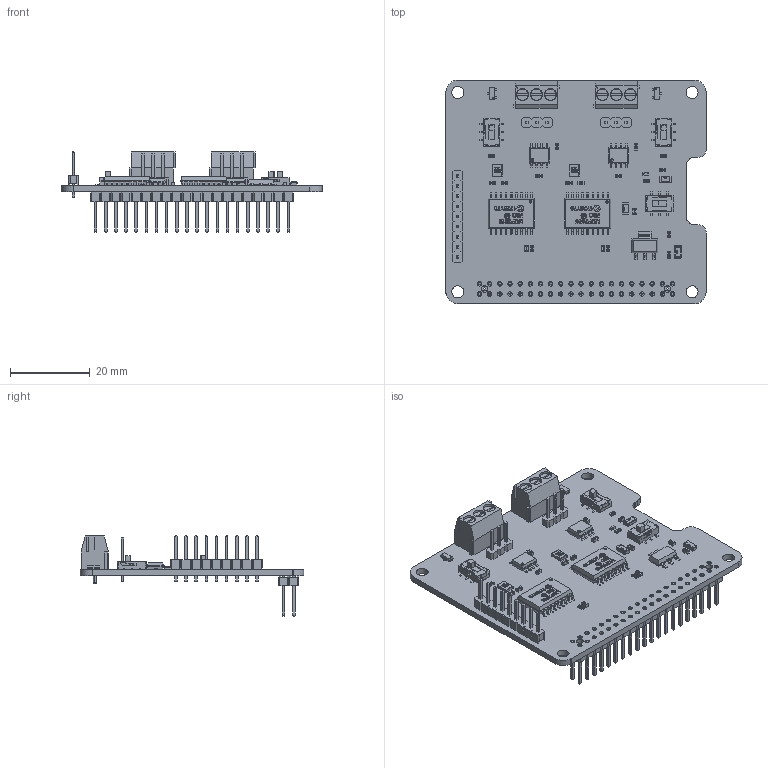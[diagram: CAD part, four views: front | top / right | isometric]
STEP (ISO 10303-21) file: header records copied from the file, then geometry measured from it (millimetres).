
FILE_DESCRIPTION(/* description */ (''),/* implementation_level */ '2;1');
FILE_NAME(/* name */ '2CH-CAN_step.prt.stp',/* time_stamp */ '2025-08-19T10:36:45+08:00',/* author */ (''),/* organization */ (''),/* preprocessor_version */ 'ST-DEVELOPER v16.7',/* originating_system */ 'SIEMENS PLM Software NX 12.0',/* authorisation */ '');
FILE_SCHEMA (('AUTOMOTIVE_DESIGN { 1 0 10303 214 3 1 1 1 }'));
Products named in the file (84): User_Library-LED_0603_R_Pad; User_Library-LED_0603_R_Pocket001; User_Library-LED_0603_R_Fillet; User_Library-LED_0603_R_Pad004; User_Library-LED_0603_R_Pocket002; LOGO_85327; R_060379863; K3-2380ke; K3-2380; Open CASCADE STEP translator 6.8 2.7.1.10; Open CASCADE STEP translator 6.8 2.7.1.9; Open CASCADE STEP translator 6.8 2.7.1.8; Open CASCADE STEP translator 6.8 2.7.1.7; Open CASCADE STEP translator 6.8 2.7.1.6; Open CASCADE STEP translator 6.8 2.7.1.5; Open CASCADE STEP translator 6.8 2.7.1.4; Open CASCADE STEP translator 6.8 2.7.1.3; Open CASCADE STEP translator 6.8 2.7.1.2; Open CASCADE STEP translator 6.8 2.7.1.1; C_060310486; LOGO_; User_Library-TO-223_5_1; User_Library-TO-223_4_1; User_Library-TO-223_3_1; User_Library-TO-223_2_1; User_Library-TO-223_1_1; HEADER_20X2; C1206; SOT23-3; DG350-3,5-03P; SOIC-8-1; MCP2515_SOIC-18; XTAL-3225; PZ-3P; Open CASCADE STEP translator 6.8 2.1.1; P9; C_0603; C1; C2; C3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
Assembly tree (110 placements, depth 4):
  2CH-CAN_step
    Board
      Open CASCADE STEP translator 6.8 2.1.1
    P5
      PZ-3P
    P4
      PZ-3P
    U5
      TO-223
        User_Library-TO-223_1_1
        User_Library-TO-223_2_1
        User_Library-TO-223_3_1
        User_Library-TO-223_4_1
        User_Library-TO-223_5_1
    C18
      C_0603
        LOGO_
        C_060310486
    C17
      C_0603
        LOGO_
        C_060310486
    P3
      2.54-9pin
        Open CASCADE STEP translator 6.8 2.7.1.1
        Open CASCADE STEP translator 6.8 2.7.1.2
        Open CASCADE STEP translator 6.8 2.7.1.3
        Open CASCADE STEP translator 6.8 2.7.1.4
        Open CASCADE STEP translator 6.8 2.7.1.5
        Open CASCADE STEP translator 6.8 2.7.1.6
        Open CASCADE STEP translator 6.8 2.7.1.7
        Open CASCADE STEP translator 6.8 2.7.1.8
        Open CASCADE STEP translator 6.8 2.7.1.9
        Open CASCADE STEP translator 6.8 2.7.1.10
    Y2
      XTAL-3225
    Y1
      XTAL-3225
    U4
      MCP2515_SOIC-18
    U3
      MCP2515_SOIC-18
    U2
      SOIC-8-1
    U1
      SOIC-8-1
    S3
      K3-2380s
        K3-2380
        K3-2380ke
    S2
      K3-2380s
        K3-2380
        K3-2380ke
    S1
      K3-2380s
        K3-2380
        K3-2380ke
    R6
      R_0603
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Bounding box: 65.15 x 56 x 20.17 mm (x, y, z)
Volume: 8144.4 mm3; surface area: 14677.4 mm2
Topology: 389 solids, 389 shells, 9467 faces, 23222 edges, 14657 vertices
Faces by surface type: plane 5055, bspline 2394, cylinder 1718, torus 156, sphere 140, cone 4
Full cylindrical faces by diameter (mm): 0.9 x15, 1.1 x40, 1.4 x6, 1.65 x2, 3 x4
Entity records: 135249 total; most frequent: CARTESIAN_POINT 40267, ORIENTED_EDGE 18272, DIRECTION 15422, EDGE_CURVE 9136, LINE 6686, VECTOR 6686, VERTEX_POINT 5814, AXIS2_PLACEMENT_3D 4368
